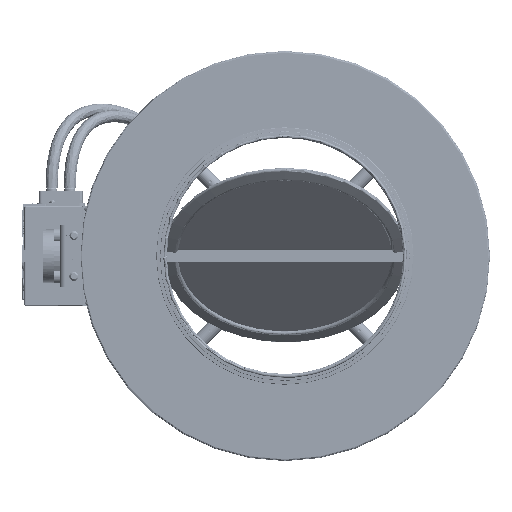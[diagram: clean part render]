
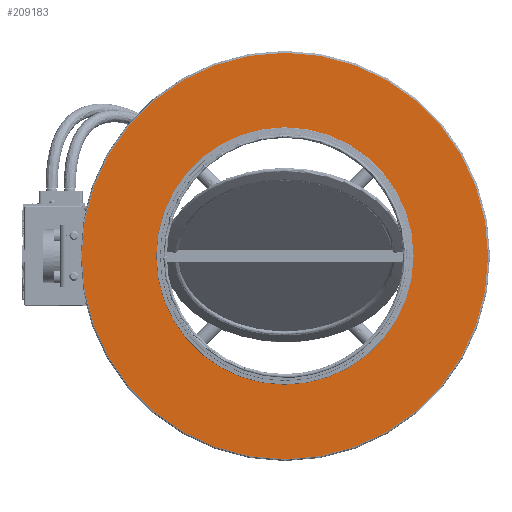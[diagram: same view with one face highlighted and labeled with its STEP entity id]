
A CAD part, left-side view. The second image highlights one B-rep face of the part: STEP entity #209183.
In plain terms, the highlighted planar face has unit normal (-1, 0, 0) as drawn and (0, -1, 0) by its records, which use the part's own axes.
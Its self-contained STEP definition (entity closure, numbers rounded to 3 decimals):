
#3279 = VERTEX_POINT ( 'NONE', #54719 ) ;
#20259 = DIRECTION ( 'NONE',  ( 1., 0., 0. ) ) ;
#23838 = EDGE_CURVE ( 'NONE', #3279, #3279, #302162, .T. ) ;
#38569 = EDGE_LOOP ( 'NONE', ( #299319 ) ) ;
#54719 = CARTESIAN_POINT ( 'NONE',  ( 30., 0., 0. ) ) ;
#67680 = AXIS2_PLACEMENT_3D ( 'NONE', #298514, #302268, #184226 ) ;
#79431 = AXIS2_PLACEMENT_3D ( 'NONE', #280929, #339981, #20259 ) ;
#86588 = PLANE ( 'NONE',  #79431 ) ;
#91786 = CIRCLE ( 'NONE', #67680, 134. ) ;
#115248 = FACE_OUTER_BOUND ( 'NONE', #201334, .T. ) ;
#131412 = EDGE_CURVE ( 'NONE', #227242, #227242, #91786, .T. ) ;
#137949 = CARTESIAN_POINT ( 'NONE',  ( 84., 0., 0. ) ) ;
#184226 = DIRECTION ( 'NONE',  ( 1., 0., 0. ) ) ;
#201334 = EDGE_LOOP ( 'NONE', ( #259579 ) ) ;
#209183 = ADVANCED_FACE ( 'NONE', ( #115248, #231273 ), #86588, .T. ) ;
#227242 = VERTEX_POINT ( 'NONE', #137949 ) ;
#231273 = FACE_BOUND ( 'NONE', #38569, .T. ) ;
#259579 = ORIENTED_EDGE ( 'NONE', *, *, #131412, .T. ) ;
#280929 = CARTESIAN_POINT ( 'NONE',  ( 0., 0., 0. ) ) ;
#298514 = CARTESIAN_POINT ( 'NONE',  ( -50., 0., 0. ) ) ;
#299319 = ORIENTED_EDGE ( 'NONE', *, *, #23838, .F. ) ;
#302162 = CIRCLE ( 'NONE', #363072, 80. ) ;
#302268 = DIRECTION ( 'NONE',  ( 0., -1., 0. ) ) ;
#308964 = CARTESIAN_POINT ( 'NONE',  ( -50., 0., 0. ) ) ;
#310835 = DIRECTION ( 'NONE',  ( 1., 0., 0. ) ) ;
#339294 = DIRECTION ( 'NONE',  ( 0., -1., 0. ) ) ;
#339981 = DIRECTION ( 'NONE',  ( 0., -1., 0. ) ) ;
#363072 = AXIS2_PLACEMENT_3D ( 'NONE', #308964, #339294, #310835 ) ;
